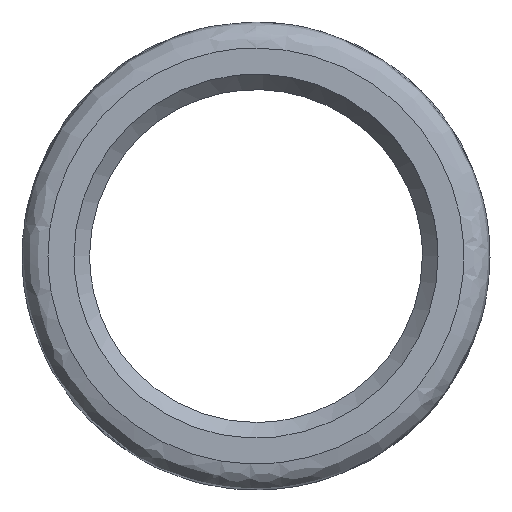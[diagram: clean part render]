
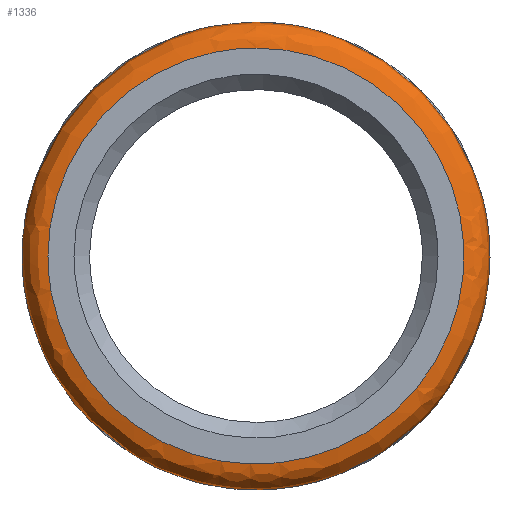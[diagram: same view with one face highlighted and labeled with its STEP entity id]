
A CAD part, left-side view. The second image highlights one B-rep face of the part: STEP entity #1336.
In plain terms, the highlighted free-form (B-spline) face has degree [2, 2] with [5, 9] control points.
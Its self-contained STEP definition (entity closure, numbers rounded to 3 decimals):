
#1290 = EDGE_CURVE('',#1291,#1293,#1295,.T.);
#1291 = VERTEX_POINT('',#1292);
#1292 = CARTESIAN_POINT('',(0.,24.,0.));
#1293 = VERTEX_POINT('',#1294);
#1294 = CARTESIAN_POINT('',(0.,0.,24.));
#1295 = ( BOUNDED_CURVE() B_SPLINE_CURVE(2,(#1296,#1297,#1298),
.UNSPECIFIED.,.F.,.F.) B_SPLINE_CURVE_WITH_KNOTS((3,3),(0.,
1.571),.PIECEWISE_BEZIER_KNOTS.) CURVE() 
GEOMETRIC_REPRESENTATION_ITEM() RATIONAL_B_SPLINE_CURVE((1.,
0.707,1.)) REPRESENTATION_ITEM('') );
#1296 = CARTESIAN_POINT('',(0.,24.,0.));
#1297 = CARTESIAN_POINT('',(0.,24.,24.));
#1298 = CARTESIAN_POINT('',(0.,0.,24.));
#1300 = EDGE_CURVE('',#1293,#1291,#1301,.T.);
#1301 = ( BOUNDED_CURVE() B_SPLINE_CURVE(2,(#1302,#1303,#1304,#1305,
#1306,#1307,#1308),.UNSPECIFIED.,.F.,.F.) B_SPLINE_CURVE_WITH_KNOTS((3,2
    ,2,3),(1.571,3.142,4.712,6.283),
.UNSPECIFIED.) CURVE() GEOMETRIC_REPRESENTATION_ITEM() 
RATIONAL_B_SPLINE_CURVE((1.,0.707,1.,0.707,1.,
0.707,1.)) REPRESENTATION_ITEM('') );
#1302 = CARTESIAN_POINT('',(0.,0.,24.));
#1303 = CARTESIAN_POINT('',(0.,-24.,24.));
#1304 = CARTESIAN_POINT('',(0.,-24.,0.));
#1305 = CARTESIAN_POINT('',(0.,-24.,-24.));
#1306 = CARTESIAN_POINT('',(0.,0.,-24.));
#1307 = CARTESIAN_POINT('',(0.,24.,-24.));
#1308 = CARTESIAN_POINT('',(0.,24.,0.));
#1336 = ADVANCED_FACE('',(#1337),#1376,.T.);
#1337 = FACE_BOUND('',#1338,.T.);
#1338 = EDGE_LOOP('',(#1339,#1349,#1359,#1365,#1373,#1374,#1375));
#1339 = ORIENTED_EDGE('',*,*,#1340,.F.);
#1340 = EDGE_CURVE('',#1341,#1343,#1345,.T.);
#1341 = VERTEX_POINT('',#1342);
#1342 = CARTESIAN_POINT('',(5.121,26.121,0.));
#1343 = VERTEX_POINT('',#1344);
#1344 = CARTESIAN_POINT('',(5.121,0.,26.121));
#1345 = ( BOUNDED_CURVE() B_SPLINE_CURVE(2,(#1346,#1347,#1348),
.UNSPECIFIED.,.F.,.F.) B_SPLINE_CURVE_WITH_KNOTS((3,3),(0.,
1.571),.PIECEWISE_BEZIER_KNOTS.) CURVE() 
GEOMETRIC_REPRESENTATION_ITEM() RATIONAL_B_SPLINE_CURVE((1.,
0.707,1.)) REPRESENTATION_ITEM('') );
#1346 = CARTESIAN_POINT('',(5.121,26.121,0.));
#1347 = CARTESIAN_POINT('',(5.121,26.121,26.121)
  );
#1348 = CARTESIAN_POINT('',(5.121,0.,
    26.121));
#1349 = ORIENTED_EDGE('',*,*,#1350,.F.);
#1350 = EDGE_CURVE('',#1351,#1341,#1353,.T.);
#1351 = VERTEX_POINT('',#1352);
#1352 = CARTESIAN_POINT('',(5.121,-26.121,0.));
#1353 = ( BOUNDED_CURVE() B_SPLINE_CURVE(2,(#1354,#1355,#1356,#1357,
#1358),.UNSPECIFIED.,.F.,.F.) B_SPLINE_CURVE_WITH_KNOTS((3,2,3),(
    3.142,4.712,6.283),
.PIECEWISE_BEZIER_KNOTS.) CURVE() GEOMETRIC_REPRESENTATION_ITEM() 
RATIONAL_B_SPLINE_CURVE((1.,0.707,1.,0.707,1.)) 
REPRESENTATION_ITEM('') );
#1354 = CARTESIAN_POINT('',(5.121,-26.121,
    0.));
#1355 = CARTESIAN_POINT('',(5.121,-26.121,
    -26.121));
#1356 = CARTESIAN_POINT('',(5.121,0.,
    -26.121));
#1357 = CARTESIAN_POINT('',(5.121,26.121,-26.121
    ));
#1358 = CARTESIAN_POINT('',(5.121,26.121,
    0.));
#1359 = ORIENTED_EDGE('',*,*,#1360,.F.);
#1360 = EDGE_CURVE('',#1343,#1351,#1361,.T.);
#1361 = ( BOUNDED_CURVE() B_SPLINE_CURVE(2,(#1362,#1363,#1364),
.UNSPECIFIED.,.F.,.F.) B_SPLINE_CURVE_WITH_KNOTS((3,3),(1.571,
3.142),.PIECEWISE_BEZIER_KNOTS.) CURVE() 
GEOMETRIC_REPRESENTATION_ITEM() RATIONAL_B_SPLINE_CURVE((1.,
0.707,1.)) REPRESENTATION_ITEM('') );
#1362 = CARTESIAN_POINT('',(5.121,0.,
    26.121));
#1363 = CARTESIAN_POINT('',(5.121,-26.121,26.121
    ));
#1364 = CARTESIAN_POINT('',(5.121,-26.121,
    0.));
#1365 = ORIENTED_EDGE('',*,*,#1366,.T.);
#1366 = EDGE_CURVE('',#1343,#1293,#1367,.T.);
#1367 = ( BOUNDED_CURVE() B_SPLINE_CURVE(2,(#1368,#1369,#1370,#1371,
#1372),.UNSPECIFIED.,.F.,.F.) B_SPLINE_CURVE_WITH_KNOTS((3,2,3),(
-0.785,0.393,1.571),.UNSPECIFIED.) CURVE() 
GEOMETRIC_REPRESENTATION_ITEM() RATIONAL_B_SPLINE_CURVE((1.,
0.831,1.,0.831,1.)) REPRESENTATION_ITEM('') );
#1368 = CARTESIAN_POINT('',(5.121,0.,26.121));
#1369 = CARTESIAN_POINT('',(3.704,0.,27.539));
#1370 = CARTESIAN_POINT('',(1.852,0.,26.772));
#1371 = CARTESIAN_POINT('',(0.,0.,26.005));
#1372 = CARTESIAN_POINT('',(0.,0.,24.));
#1373 = ORIENTED_EDGE('',*,*,#1300,.T.);
#1374 = ORIENTED_EDGE('',*,*,#1290,.T.);
#1375 = ORIENTED_EDGE('',*,*,#1366,.F.);
#1376 = ( BOUNDED_SURFACE() B_SPLINE_SURFACE(2,2,(
    (#1377,#1378,#1379,#1380,#1381,#1382,#1383,#1384,#1385)
    ,(#1386,#1387,#1388,#1389,#1390,#1391,#1392,#1393,#1394)
    ,(#1395,#1396,#1397,#1398,#1399,#1400,#1401,#1402,#1403)
    ,(#1404,#1405,#1406,#1407,#1408,#1409,#1410,#1411,#1412)
    ,(#1413,#1414,#1415,#1416,#1417,#1418,#1419,#1420,#1421
)),.UNSPECIFIED.,.F.,.T.,.F.) B_SPLINE_SURFACE_WITH_KNOTS((3,2,3),(1,2,2
    ,2,2,2,1),(-1.571,-0.393,0.785),(
    -4.712,-3.142,-1.571,0.,1.571,
    3.142,4.712),.UNSPECIFIED.) 
GEOMETRIC_REPRESENTATION_ITEM() RATIONAL_B_SPLINE_SURFACE((
    (1.,0.707,1.,0.707,1.,0.707,1.
      ,0.707,1.)
    ,(0.831,0.588,0.831,0.588
      ,0.831,0.588,0.831,0.588
      ,0.831)
    ,(1.,0.707,1.,0.707,1.,0.707,1.
      ,0.707,1.)
    ,(0.831,0.588,0.831,0.588
      ,0.831,0.588,0.831,0.588
      ,0.831)
    ,(1.,0.707,1.,0.707,1.,0.707,1.
,0.707,1.))) REPRESENTATION_ITEM('') SURFACE() );
#1377 = CARTESIAN_POINT('',(5.121,0.,26.121));
#1378 = CARTESIAN_POINT('',(5.121,-26.121,26.121
    ));
#1379 = CARTESIAN_POINT('',(5.121,-26.121,0.));
#1380 = CARTESIAN_POINT('',(5.121,-26.121,
    -26.121));
#1381 = CARTESIAN_POINT('',(5.121,0.,-26.121));
#1382 = CARTESIAN_POINT('',(5.121,26.121,-26.121
    ));
#1383 = CARTESIAN_POINT('',(5.121,26.121,0.));
#1384 = CARTESIAN_POINT('',(5.121,26.121,26.121)
  );
#1385 = CARTESIAN_POINT('',(5.121,0.,26.121));
#1386 = CARTESIAN_POINT('',(3.704,0.,27.539));
#1387 = CARTESIAN_POINT('',(3.704,-27.539,
    27.539));
#1388 = CARTESIAN_POINT('',(3.704,-27.539,0.));
#1389 = CARTESIAN_POINT('',(3.704,-27.539,
    -27.539));
#1390 = CARTESIAN_POINT('',(3.704,0.,-27.539));
#1391 = CARTESIAN_POINT('',(3.704,27.539,
    -27.539));
#1392 = CARTESIAN_POINT('',(3.704,27.539,0.));
#1393 = CARTESIAN_POINT('',(3.704,27.539,27.539
    ));
#1394 = CARTESIAN_POINT('',(3.704,0.,27.539));
#1395 = CARTESIAN_POINT('',(1.852,0.,26.772));
#1396 = CARTESIAN_POINT('',(1.852,-26.772,
    26.772));
#1397 = CARTESIAN_POINT('',(1.852,-26.772,0.));
#1398 = CARTESIAN_POINT('',(1.852,-26.772,
    -26.772));
#1399 = CARTESIAN_POINT('',(1.852,0.,-26.772));
#1400 = CARTESIAN_POINT('',(1.852,26.772,
    -26.772));
#1401 = CARTESIAN_POINT('',(1.852,26.772,0.));
#1402 = CARTESIAN_POINT('',(1.852,26.772,
    26.772));
#1403 = CARTESIAN_POINT('',(1.852,0.,26.772));
#1404 = CARTESIAN_POINT('',(0.,0.,26.005));
#1405 = CARTESIAN_POINT('',(0.,-26.005,
    26.005));
#1406 = CARTESIAN_POINT('',(0.,-26.005,0.));
#1407 = CARTESIAN_POINT('',(0.,-26.005,
    -26.005));
#1408 = CARTESIAN_POINT('',(0.,0.,-26.005));
#1409 = CARTESIAN_POINT('',(0.,26.005,
    -26.005));
#1410 = CARTESIAN_POINT('',(0.,26.005,0.));
#1411 = CARTESIAN_POINT('',(0.,26.005,
    26.005));
#1412 = CARTESIAN_POINT('',(0.,0.,26.005));
#1413 = CARTESIAN_POINT('',(0.,0.,24.));
#1414 = CARTESIAN_POINT('',(0.,-24.,24.));
#1415 = CARTESIAN_POINT('',(0.,-24.,0.));
#1416 = CARTESIAN_POINT('',(0.,-24.,-24.));
#1417 = CARTESIAN_POINT('',(0.,0.,-24.));
#1418 = CARTESIAN_POINT('',(0.,24.,-24.));
#1419 = CARTESIAN_POINT('',(0.,24.,0.));
#1420 = CARTESIAN_POINT('',(0.,24.,24.));
#1421 = CARTESIAN_POINT('',(0.,0.,24.));
